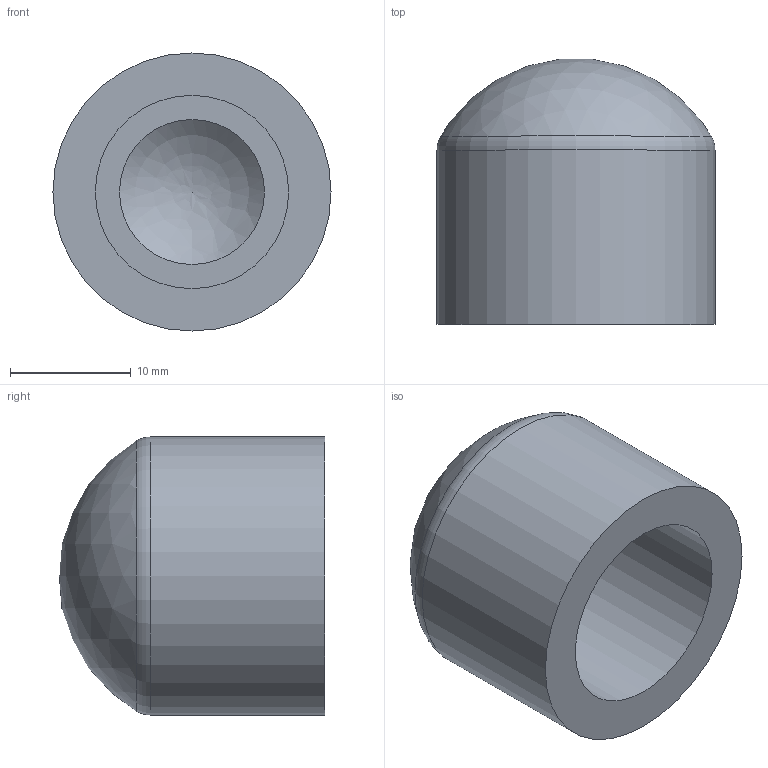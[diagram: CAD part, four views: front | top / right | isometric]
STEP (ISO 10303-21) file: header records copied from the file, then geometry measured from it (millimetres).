
FILE_DESCRIPTION(/* description */ ('PVC calotta incollaggio metrico'),/* implementation_level */ '2;1');
FILE_NAME(/* name */ 'C:\Users\POLYPIPE\Desktop\DATASET INVENTOR\LIBRERIA EFFAST\RACCORDI 3DxWEB\RDR\3D_RDRCAD\3D_RDRCAD0160.stp',/* time_stamp */ '2018-01-19T14:05:24+01:00',/* author */ ('POLYPIPE'),/* organization */ ('Polypipe Italia'),/* preprocessor_version */ 'ST-DEVELOPER v16.1',/* originating_system */ 'Autodesk Inventor 2016',/* authorisation */ '');
FILE_SCHEMA (('CONFIG_CONTROL_DESIGN'));
Length unit declared in the file: millimetre
Products named in the file (1): 3D_RDRCAD
Bounding box: 23 x 21.93 x 23 mm (x, y, z)
Volume: 4503 mm3; surface area: 2889.3 mm2
Topology: 1 solids, 1 shells, 7 faces, 12 edges, 8 vertices
Faces by surface type: cylinder 2, plane 2, torus 1, sphere 1, bspline 1
Full cylindrical faces by diameter (mm): 16 x1, 23 x1
Entity records: 198 total; most frequent: CARTESIAN_POINT 52, DIRECTION 28, ORIENTED_EDGE 16, AXIS2_PLACEMENT_3D 14, EDGE_LOOP 12, VERTEX_POINT 8, EDGE_CURVE 8, FACE_OUTER_BOUND 7
